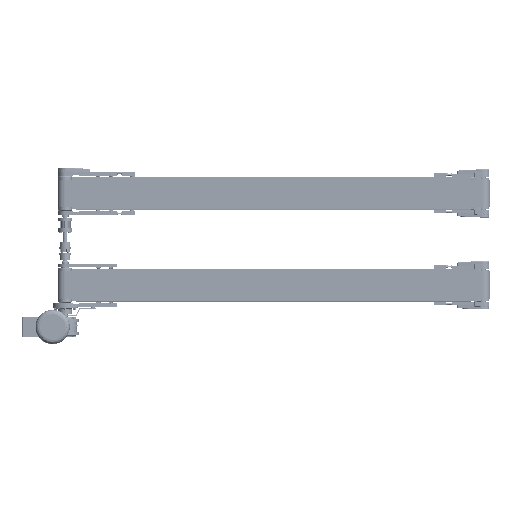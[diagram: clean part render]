
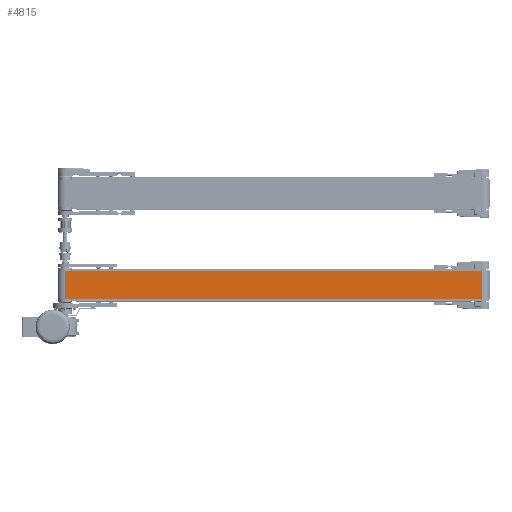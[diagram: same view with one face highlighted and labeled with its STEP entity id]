
A CAD part, front view. The second image highlights one B-rep face of the part: STEP entity #4815.
In plain terms, the highlighted planar face has unit normal (0, -1, 0).
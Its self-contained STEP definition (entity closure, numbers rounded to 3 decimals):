
#370 = FACE_OUTER_BOUND ( 'NONE', #5993, .T. ) ;
#4815 = ADVANCED_FACE ( 'NONE', ( #370 ), #83737, .F. ) ;
#5993 = EDGE_LOOP ( 'NONE', ( #73430, #95590, #103681, #107496 ) ) ;
#6550 = LINE ( 'NONE', #35109, #59947 ) ;
#7914 = VERTEX_POINT ( 'NONE', #99861 ) ;
#8912 = DIRECTION ( 'NONE',  ( 0., 0., 1. ) ) ;
#15276 = LINE ( 'NONE', #108950, #82400 ) ;
#15773 = VECTOR ( 'NONE', #57488, 1000. ) ;
#18049 = DIRECTION ( 'NONE',  ( 0., 0., -1. ) ) ;
#28902 = VERTEX_POINT ( 'NONE', #112219 ) ;
#35109 = CARTESIAN_POINT ( 'NONE',  ( -750., -27., 50. ) ) ;
#36060 = EDGE_CURVE ( 'NONE', #97274, #67528, #120319, .T. ) ;
#46014 = DIRECTION ( 'NONE',  ( 0., 1., 0. ) ) ;
#47172 = CARTESIAN_POINT ( 'NONE',  ( -750., -27., 50. ) ) ;
#57488 = DIRECTION ( 'NONE',  ( 1., 0., 0. ) ) ;
#58060 = EDGE_CURVE ( 'NONE', #28902, #97274, #94628, .T. ) ;
#59947 = VECTOR ( 'NONE', #18049, 1000. ) ;
#67528 = VERTEX_POINT ( 'NONE', #110194 ) ;
#72711 = EDGE_CURVE ( 'NONE', #28902, #7914, #6550, .T. ) ;
#73430 = ORIENTED_EDGE ( 'NONE', *, *, #85505, .T. ) ;
#74033 = DIRECTION ( 'NONE',  ( 0., 0., -1. ) ) ;
#82400 = VECTOR ( 'NONE', #109552, 1000. ) ;
#83737 = PLANE ( 'NONE',  #88794 ) ;
#85505 = EDGE_CURVE ( 'NONE', #7914, #67528, #15276, .T. ) ;
#85901 = VECTOR ( 'NONE', #74033, 1000. ) ;
#87854 = CARTESIAN_POINT ( 'NONE',  ( 750., -27., 50. ) ) ;
#88794 = AXIS2_PLACEMENT_3D ( 'NONE', #94073, #46014, #8912 ) ;
#91724 = CARTESIAN_POINT ( 'NONE',  ( 750., -27., 50. ) ) ;
#94073 = CARTESIAN_POINT ( 'NONE',  ( -750., -27., 50. ) ) ;
#94628 = LINE ( 'NONE', #47172, #15773 ) ;
#95590 = ORIENTED_EDGE ( 'NONE', *, *, #36060, .F. ) ;
#97274 = VERTEX_POINT ( 'NONE', #87854 ) ;
#99861 = CARTESIAN_POINT ( 'NONE',  ( -750., -27., -50. ) ) ;
#103681 = ORIENTED_EDGE ( 'NONE', *, *, #58060, .F. ) ;
#107496 = ORIENTED_EDGE ( 'NONE', *, *, #72711, .T. ) ;
#108950 = CARTESIAN_POINT ( 'NONE',  ( -750., -27., -50. ) ) ;
#109552 = DIRECTION ( 'NONE',  ( 1., 0., 0. ) ) ;
#110194 = CARTESIAN_POINT ( 'NONE',  ( 750., -27., -50. ) ) ;
#112219 = CARTESIAN_POINT ( 'NONE',  ( -750., -27., 50. ) ) ;
#120319 = LINE ( 'NONE', #91724, #85901 ) ;
